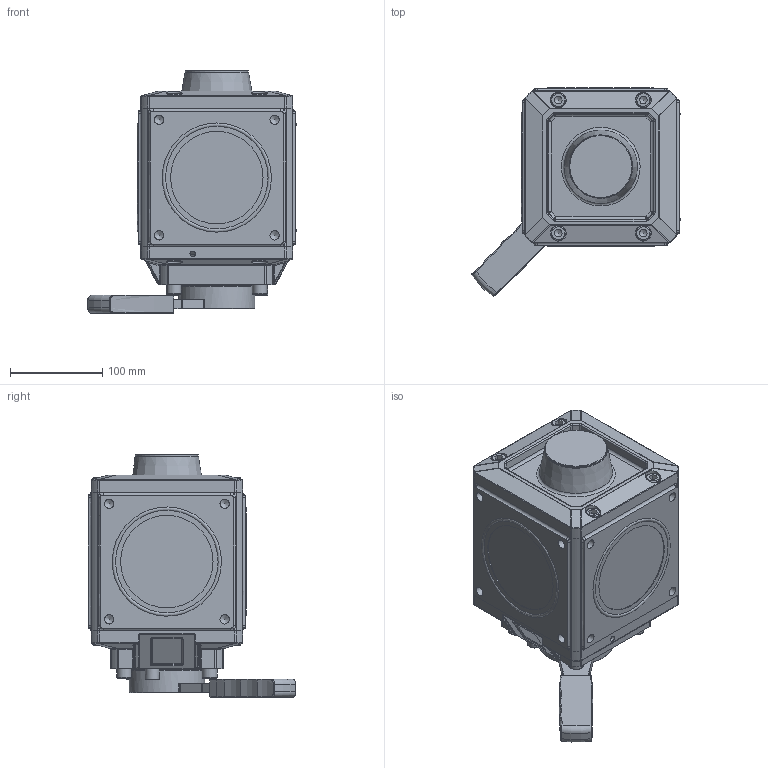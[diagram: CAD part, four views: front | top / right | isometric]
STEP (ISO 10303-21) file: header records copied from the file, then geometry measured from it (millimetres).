
FILE_DESCRIPTION(/* description */ (''),/* implementation_level */ '2;1');
FILE_NAME(/* name */ 'E:\WorkSpace\Designs\1700\1700059.stp',/* time_stamp */ '2022-05-25T09:31:21+02:00',/* author */ ('JJ'),/* organization */ (''),/* preprocessor_version */ 'ST-DEVELOPER v18.1',/* originating_system */ 'Autodesk Inventor 2022',/* authorisation */ '');
FILE_SCHEMA (('AUTOMOTIVE_DESIGN { 1 0 10303 214 3 1 1 }'));
Length unit declared in the file: millimetre
Products named in the file (1): 1700059
Bounding box: 225.45 x 224.92 x 262.8 mm (x, y, z)
Volume: 5516435.5 mm3; surface area: 290433.9 mm2
Topology: 1 solids, 1 shells, 943 faces, 2254 edges, 1340 vertices
Faces by surface type: cylinder 362, plane 266, bspline 146, torus 106, cone 35, sphere 28
Full cylindrical faces by diameter (mm): 6 x1, 10.106 x32, 15 x2, 16 x14, 17 x8, 68 x1, 74.7 x1, 82 x1, 100 x4
Entity records: 30924 total; most frequent: CARTESIAN_POINT 8614, DIRECTION 4499, ORIENTED_EDGE 4448, EDGE_CURVE 2224, AXIS2_PLACEMENT_3D 1796, VERTEX_POINT 1340, EDGE_LOOP 1018, FACE_OUTER_BOUND 943
